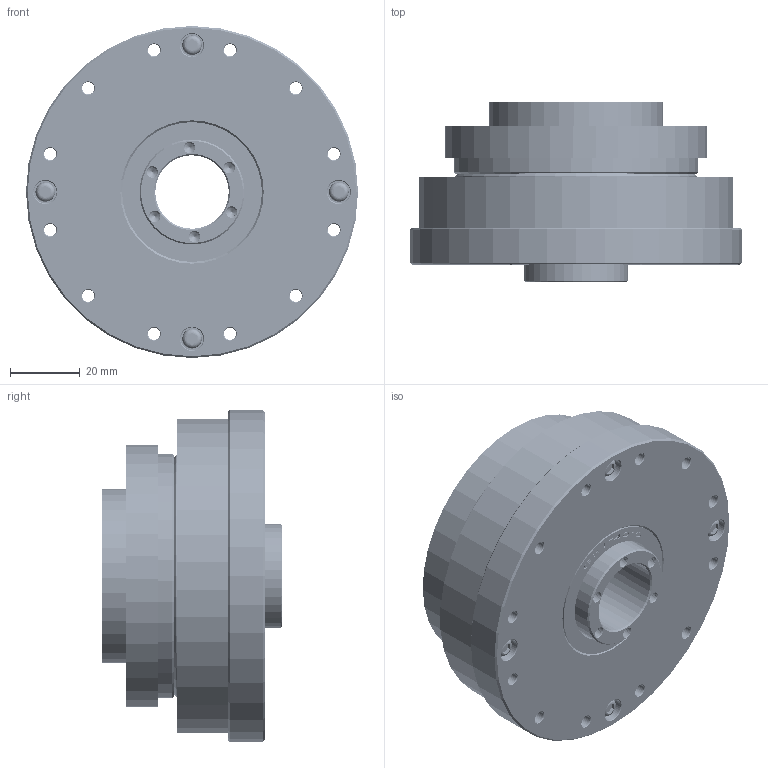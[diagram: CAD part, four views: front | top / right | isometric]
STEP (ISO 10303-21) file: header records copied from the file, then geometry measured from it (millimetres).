
FILE_DESCRIPTION(/* description */ (''),/* implementation_level */ '2;1');
FILE_NAME(/* name */ 'XBK20成品图.prt.stp',/* time_stamp */ '2022-05-21T13:24:35+08:00',/* author */ (''),/* organization */ (''),/* preprocessor_version */ 'ST-DEVELOPER v16',/* originating_system */ 'SIEMENS PLM Software NX 10.0',/* authorisation */ '');
FILE_SCHEMA (('CONFIG_CONTROL_DESIGN'));
Products named in the file (16): 20-柔性轴承保持架（日标）; YM3X12; M3X18; G69785; G31405; XBK20-3-1凸轮; XBK20-6上盖板; XBK20-1钢轮; M2X6; XBK20-4-1-1 销子; XBK20-4-1内芯; XBK20-4-2外圈; XBK20-2柔轮; 深沟球轴承6806Z; 20-柔性轴承（日标）_MODEL; XBK20成品图
Assembly tree (23 placements, depth 3):
  XBK20成品图
    深沟球轴承6806Z  x2
    XBK20-2柔轮
    XBK20-4-2外圈
    XBK20-4-1内芯
    XBK20-4-1-1 销子
    M2X6
    XBK20-1钢轮
    XBK20-6上盖板
    XBK20-3-1凸轮
    20-柔性轴承（日标）_MODEL
      20-柔性轴承保持架（日标）
    G31405  x2
    G69785
    M3X18  x4
    YM3X12  x4
Bounding box: 95 x 51.5 x 95 mm (x, y, z)
Volume: 208429.3 mm3; surface area: 153691.4 mm2
Topology: 95 solids, 95 shells, 1421 faces, 3542 edges, 2305 vertices
Faces by surface type: plane 492, cylinder 422, cone 233, extrusion 114, bspline 75, sphere 67, torus 18
Full cylindrical faces by diameter (mm): 2.3 x1, 2.6 x20, 3 x120, 3.5 x100, 4 x2, 5.6 x4, 5.68 x4, 6 x8, 6.5 x4, 21 x2, 21.5 x1, 30 x4, 31 x2, 32 x2, 34 x6, 34.5 x1, 35.56 x1, 36 x1, 37 x3, 38.2 x2, 39 x4, 39.7 x1, 40 x4, 42 x4, 44.4 x2, 46 x2, 47 x1, 49.073 x2, 50 x2, 51.7 x1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
Entity records: 136449 total; most frequent: CARTESIAN_POINT 113701, DIRECTION 3874, ORIENTED_EDGE 3670, EDGE_CURVE 1835, EDGE_LOOP 1751, AXIS2_PLACEMENT_3D 1654, VERTEX_POINT 1486, FACE_BOUND 1350
